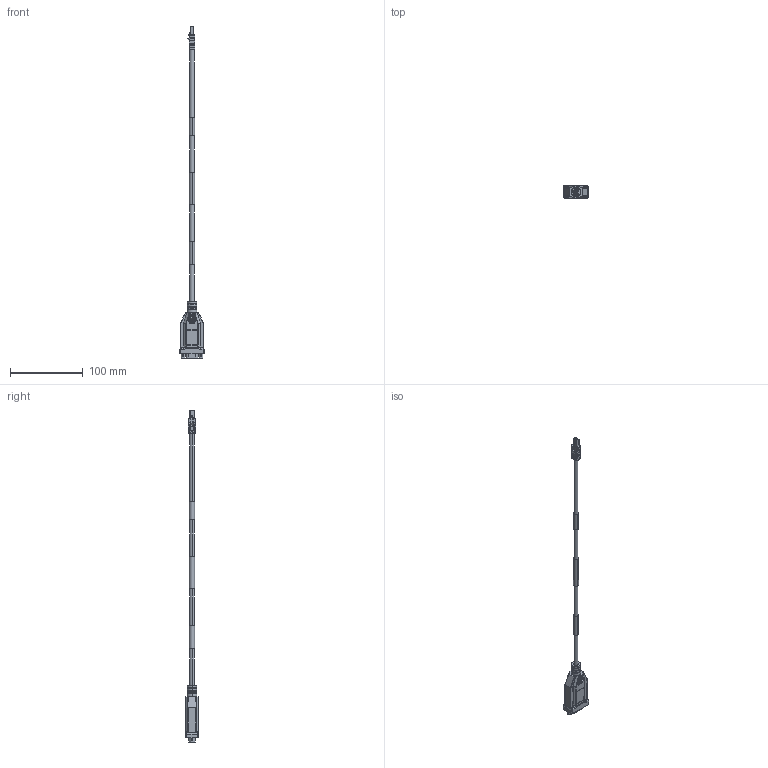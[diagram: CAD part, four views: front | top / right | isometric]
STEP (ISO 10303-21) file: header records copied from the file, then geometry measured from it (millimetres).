
FILE_DESCRIPTION((''),'2;1');
FILE_NAME('CU_NI-XNET-TRANSC-CABLE_18IN','2014-10-29T',('btrammel'),(''),'PRO/ENGINEER BY PARAMETRIC TECHNOLOGY CORPORATION, 2014000','PRO/ENGINEER BY PARAMETRIC TECHNOLOGY CORPORATION, 2014000','');
FILE_SCHEMA(('CONFIG_CONTROL_DESIGN'));
Length unit declared in the file: inch
Products named in the file (1): CU_NI-XNET-TRANSC-CABLE_18IN
Bounding box: 34.42 x 17.88 x 457.25 mm (x, y, z)
Volume: 42988.7 mm3; surface area: 18299 mm2
Topology: 2 solids, 2 shells, 877 faces, 2383 edges, 1514 vertices
Faces by surface type: plane 539, cylinder 266, bspline 26, sphere 20, cone 16, torus 10
Entity records: 29039 total; most frequent: CARTESIAN_POINT 7024, ORIENTED_EDGE 4726, DIRECTION 4361, EDGE_CURVE 2363, VECTOR 1735, LINE 1735, VERTEX_POINT 1514, AXIS2_PLACEMENT_3D 1313
